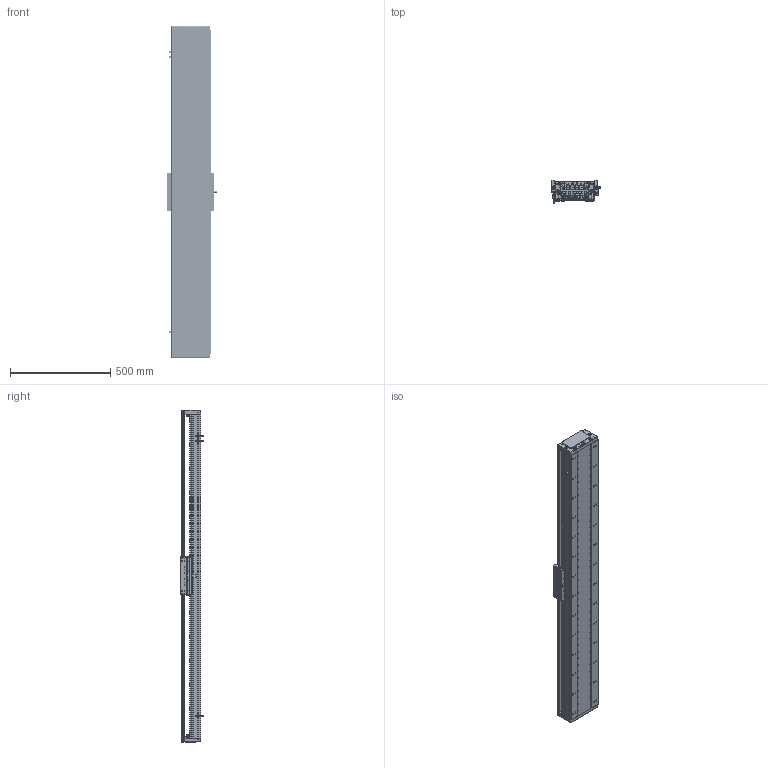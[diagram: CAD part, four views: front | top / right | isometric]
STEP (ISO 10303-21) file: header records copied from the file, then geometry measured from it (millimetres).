
FILE_DESCRIPTION (( 'STEP AP203' ), '1' );
FILE_NAME ('DA-C195-C2-T1380-C010-0.2 眻盄萇儂.STEP', '2025-08-15T01:06:02', ( '' ), ( '' ), 'SwSTEP 2.0', 'SolidWorks 2019', '' );
FILE_SCHEMA (( 'CONFIG_CONTROL_DESIGN' ));
Length unit declared in the file: millimetre
Products named in the file (12): CU195-C2賑輸-俋楷; IU-CU195-L 菁釱絳寢; DA95-HXJ-00 遣喳砎蝶; MS200 棠掑喜S315-T240; LMT黍杅芛; 66156-0001-005-00 光电感应片(默认); IU-CU195-L-00 菁釱(L1620); PM-T45ㄗ侂狟ㄘ; 葩璃 DA95-GT-T-00; DA195-DG-H-00  端盖（压铸镂空版）; DA-C195-C2-T1380-C010-0.2 眻盄萇儂; 66156-0001-003-00 裔啣
Assembly tree (20 placements, depth 3):
  DA-C195-C2-T1380-C010-0.2 眻盄萇儂
    IU-CU195-L 菁釱絳寢
      IU-CU195-L-00 菁釱(L1620)
      葩璃 DA95-GT-T-00  x4
    LMT黍杅芛
    MS200 棠掑喜S315-T240
    PM-T45ㄗ侂狟ㄘ  x3
    66156-0001-005-00 光电感应片(默认)
    DA195-DG-H-00  端盖（压铸镂空版）  x2
    DA95-HXJ-00 遣喳砎蝶  x4
    66156-0001-003-00 裔啣
    CU195-C2賑輸-俋楷
Bounding box: 248 x 115.6 x 1660 mm (x, y, z)
Volume: 11082352.1 mm3; surface area: 3186471.4 mm2
Topology: 58 solids, 130 shells, 5455 faces, 14204 edges, 8681 vertices
Faces by surface type: cylinder 2461, plane 1644, bspline 710, cone 560, torus 44, sphere 36
Entity records: 155837 total; most frequent: CARTESIAN_POINT 49467, ORIENTED_EDGE 22462, DIRECTION 21208, EDGE_CURVE 11231, AXIS2_PLACEMENT_3D 7907, VERTEX_POINT 7111, LINE 5394, VECTOR 5394
